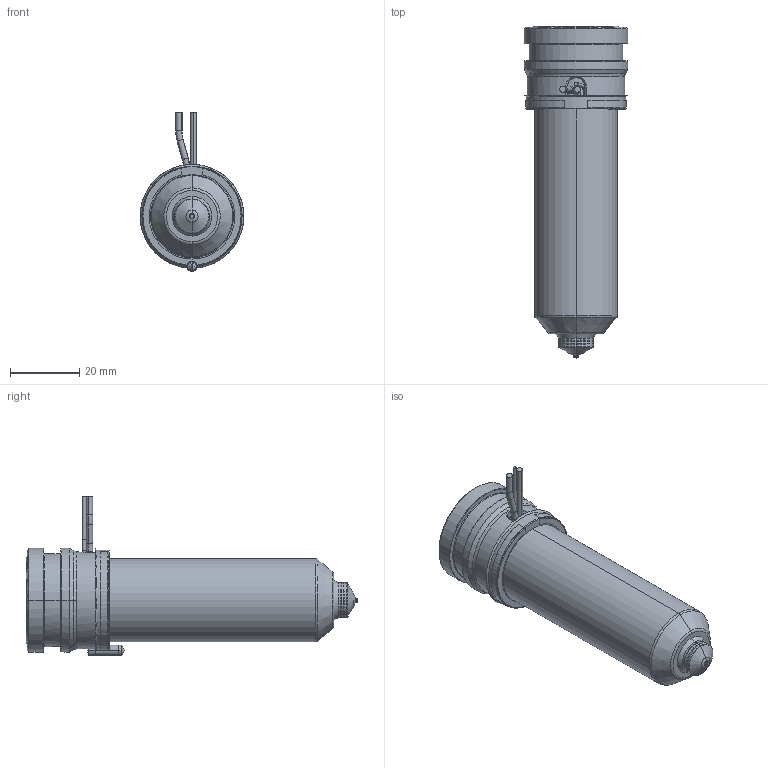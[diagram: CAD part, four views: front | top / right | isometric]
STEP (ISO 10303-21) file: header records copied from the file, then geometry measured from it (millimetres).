
FILE_DESCRIPTION((''),'2;1');
FILE_NAME('MPN-10-29-VSA10-076-A','2026-02-05T12:44:16',('UPTIO'),('Thermoplay S.p.A.'),'CREO PARAMETRIC BY PTC INC, 2023494','CREO PARAMETRIC BY PTC INC, 2023494','');
FILE_SCHEMA(('CONFIG_CONTROL_DESIGN','SHAPE_APPEARANCE_LAYERS_GROUPS'));
Length unit declared in the file: millimetre
Products named in the file (1): MPN-10-29-VSA10-076-A
Bounding box: 30 x 96 x 46 mm (x, y, z)
Volume: 30964.7 mm3; surface area: 30657.2 mm2
Topology: 2 solids, 3 shells, 556 faces, 1451 edges, 894 vertices
Faces by surface type: cylinder 184, plane 142, bspline 77, torus 70, cone 70, sphere 9, extrusion 4
Entity records: 29118 total; most frequent: CARTESIAN_POINT 12704, ORIENTED_EDGE 2890, DIRECTION 2691, EDGE_CURVE 1445, AXIS2_PLACEMENT_3D 1066, VERTEX_POINT 894, CIRCLE 590, EDGE_LOOP 585
